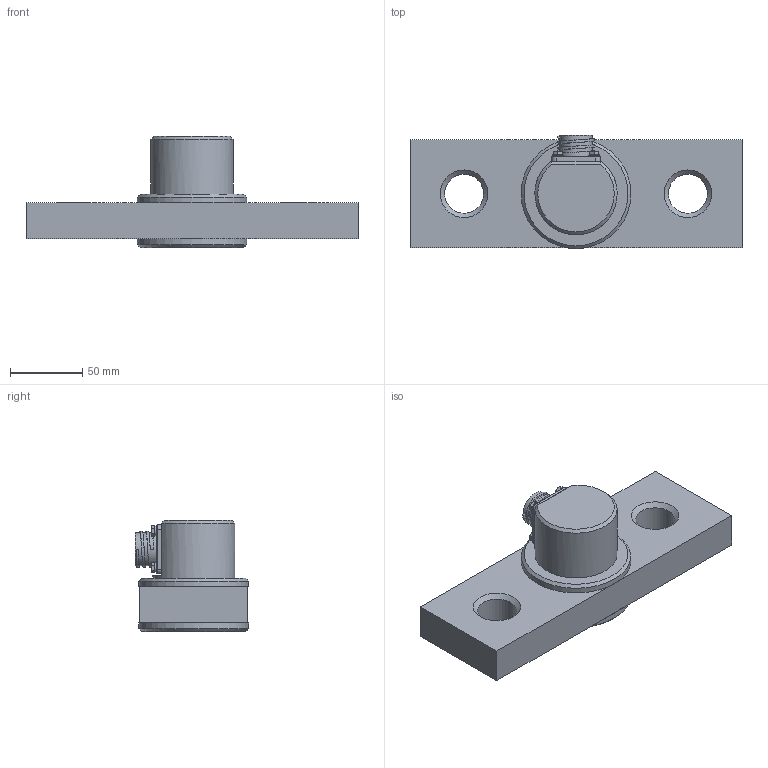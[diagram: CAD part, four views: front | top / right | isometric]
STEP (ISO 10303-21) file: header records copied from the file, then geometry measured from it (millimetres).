
FILE_DESCRIPTION(/* description */ ('Alibre Inc.'),/* implementation_level */ '2;1');
FILE_NAME(/* name */ 'export0',/* time_stamp */ '2018-02-08T09:21:15+00:00',/* author */ (''),/* organization */ (''),/* preprocessor_version */ 'ST-DEVELOPER v14',/* originating_system */ 'Alibre',/* authorisation */ '');
FILE_SCHEMA (('CONFIG_CONTROL_DESIGN'));
Length unit declared in the file: centimetre
Products named in the file (9): ID_1; ID_2; ID_3; ID_4; ID_5; ID_6; ID_7
Bounding box: 230 x 78.42 x 77 mm (x, y, z)
Volume: 509325 mm3; surface area: 94838.5 mm2
Topology: 23 solids, 23 shells, 624 faces, 1479 edges, 958 vertices
Faces by surface type: plane 331, cylinder 132, bspline 78, cone 76, sphere 6, torus 1
Full cylindrical faces by diameter (mm): 1.448 x6, 1.473 x6, 1.55 x6, 1.613 x6, 2.134 x6, 2.565 x12, 2.59 x12, 3.6 x4, 3.9 x4, 4.83 x4, 7.7 x4, 13.54 x1, 13.65 x1, 13.73 x1, 15.16 x1, 15.2 x1, 15.35 x1, 15.67 x1, 16.12 x1, 17.05 x1, 17.91 x1, 18.6 x2, 20.114 x1, 22.73 x2, 25.05 x3, 25.4 x1, 27 x2, 29.45 x1, 29.65 x2, 30 x1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
Entity records: 17089 total; most frequent: CARTESIAN_POINT 4716, ORIENTED_EDGE 2246, DIRECTION 1905, EDGE_CURVE 1123, VERTEX_POINT 814, AXIS2_PLACEMENT_3D 791, FACE_BOUND 777, EDGE_LOOP 776
